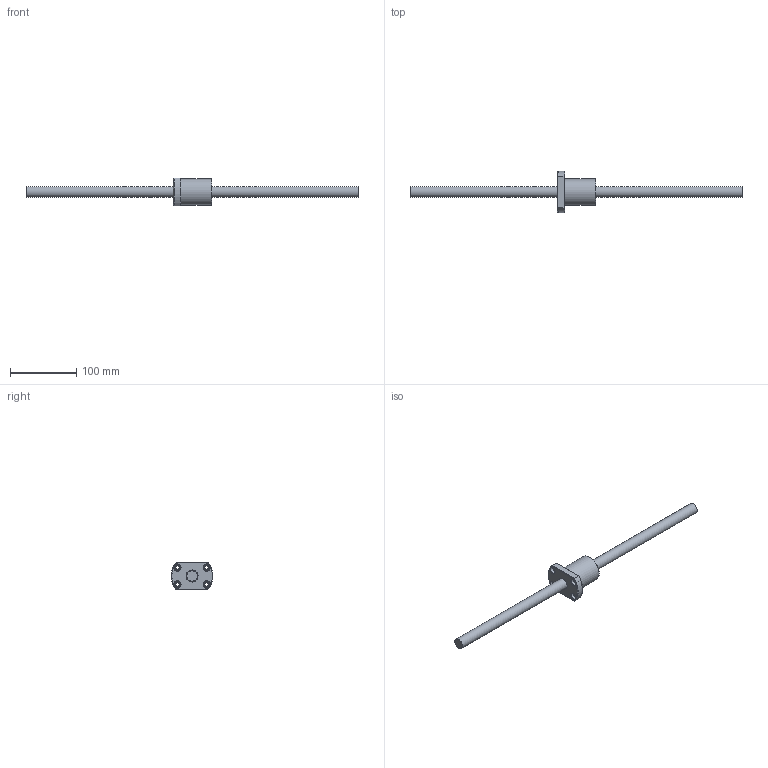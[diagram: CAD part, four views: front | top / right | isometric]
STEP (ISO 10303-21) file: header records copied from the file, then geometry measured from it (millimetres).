
FILE_DESCRIPTION (( 'STEP AP203' ), '1' );
FILE_NAME ('SFV01605D-4.8.step', '2024-05-20T03:37:18', ( '' ), ( '' ), 'SwSTEP 2.0', 'SolidWorks 2022', '' );
FILE_SCHEMA (( 'CONFIG_CONTROL_DESIGN' ));
Length unit declared in the file: millimetre
Products named in the file (1): SFV01605D-4.8
Bounding box: 500 x 62.9 x 42 mm (x, y, z)
Volume: 168756.8 mm3; surface area: 42020.9 mm2
Topology: 2 solids, 2 shells, 56 faces, 146 edges, 95 vertices
Faces by surface type: cylinder 21, plane 16, cone 9, torus 5, bspline 5
Full cylindrical faces by diameter (mm): 4 x1, 5 x6, 5.5 x4, 9.5 x4, 16 x1, 18.1 x1, 40 x1
Entity records: 3260 total; most frequent: CARTESIAN_POINT 2174, DIRECTION 198, ORIENTED_EDGE 182, EDGE_CURVE 91, AXIS2_PLACEMENT_3D 91, EDGE_LOOP 86, VERTEX_POINT 71, FACE_OUTER_BOUND 64
